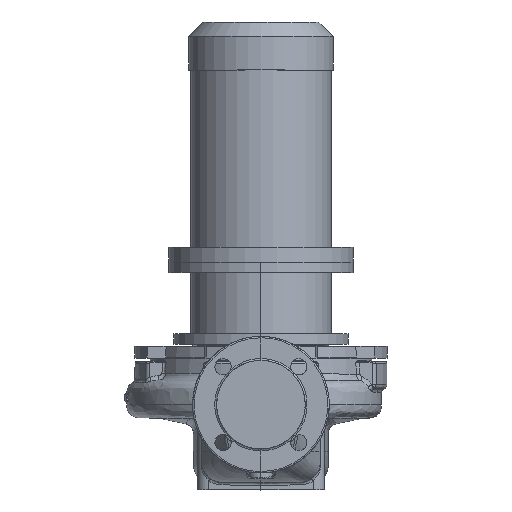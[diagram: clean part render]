
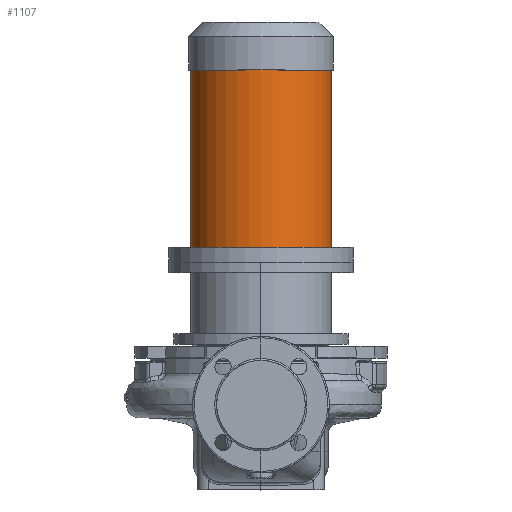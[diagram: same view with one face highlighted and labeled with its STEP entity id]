
A CAD part, top view. The second image highlights one B-rep face of the part: STEP entity #1107.
In plain terms, the highlighted cylindrical face has radius 95 mm (diameter 190 mm), a partial arc.
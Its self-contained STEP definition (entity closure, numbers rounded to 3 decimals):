
#1107 = ADVANCED_FACE ( 'NONE', ( #34441 ), #26042, .T. ) ;
#5567 = EDGE_CURVE ( 'NONE', #26272, #21528, #36604, .T. ) ;
#5949 = VECTOR ( 'NONE', #35008, 1000. ) ;
#6014 = CARTESIAN_POINT ( 'NONE',  ( 0., 213.3, 0. ) ) ;
#7045 = VECTOR ( 'NONE', #10068, 1000. ) ;
#8046 = EDGE_CURVE ( 'NONE', #19431, #26694, #44981, .T. ) ;
#8595 = DIRECTION ( 'NONE',  ( 0., -1., 0. ) ) ;
#9635 = DIRECTION ( 'NONE',  ( 0., -1., 0. ) ) ;
#10068 = DIRECTION ( 'NONE',  ( 0., -1., 0. ) ) ;
#10486 = DIRECTION ( 'NONE',  ( 0., -1., 0. ) ) ;
#13094 = CARTESIAN_POINT ( 'NONE',  ( 0., 193.3, 0. ) ) ;
#16784 = ORIENTED_EDGE ( 'NONE', *, *, #8046, .T. ) ;
#16792 = CARTESIAN_POINT ( 'NONE',  ( -95., 453.3, 0. ) ) ;
#17458 = CARTESIAN_POINT ( 'NONE',  ( -95., 193.3, 0. ) ) ;
#18017 = AXIS2_PLACEMENT_3D ( 'NONE', #13094, #8595, #26022 ) ;
#19431 = VERTEX_POINT ( 'NONE', #38943 ) ;
#21528 = VERTEX_POINT ( 'NONE', #29288 ) ;
#23441 = LINE ( 'NONE', #17458, #5949 ) ;
#25964 = LINE ( 'NONE', #36260, #7045 ) ;
#26022 = DIRECTION ( 'NONE',  ( -1., 0., 0. ) ) ;
#26042 = CYLINDRICAL_SURFACE ( 'NONE', #18017, 95. ) ;
#26272 = VERTEX_POINT ( 'NONE', #57650 ) ;
#26694 = VERTEX_POINT ( 'NONE', #16792 ) ;
#27617 = ORIENTED_EDGE ( 'NONE', *, *, #39811, .F. ) ;
#29288 = CARTESIAN_POINT ( 'NONE',  ( -95., 213.3, 0. ) ) ;
#32367 = AXIS2_PLACEMENT_3D ( 'NONE', #53309, #9635, #41285 ) ;
#32692 = ORIENTED_EDGE ( 'NONE', *, *, #52329, .T. ) ;
#34441 = FACE_OUTER_BOUND ( 'NONE', #46200, .T. ) ;
#35008 = DIRECTION ( 'NONE',  ( 0., -1., 0. ) ) ;
#36260 = CARTESIAN_POINT ( 'NONE',  ( 95., 193.3, 0. ) ) ;
#36604 = CIRCLE ( 'NONE', #52978, 95. ) ;
#38943 = CARTESIAN_POINT ( 'NONE',  ( 95., 453.3, 0. ) ) ;
#39811 = EDGE_CURVE ( 'NONE', #19431, #26272, #25964, .T. ) ;
#41285 = DIRECTION ( 'NONE',  ( -1., 0., 0. ) ) ;
#44981 = CIRCLE ( 'NONE', #32367, 95. ) ;
#46200 = EDGE_LOOP ( 'NONE', ( #27617, #16784, #32692, #54126 ) ) ;
#52329 = EDGE_CURVE ( 'NONE', #26694, #21528, #23441, .T. ) ;
#52978 = AXIS2_PLACEMENT_3D ( 'NONE', #6014, #10486, #54338 ) ;
#53309 = CARTESIAN_POINT ( 'NONE',  ( 0., 453.3, 0. ) ) ;
#54126 = ORIENTED_EDGE ( 'NONE', *, *, #5567, .F. ) ;
#54338 = DIRECTION ( 'NONE',  ( -1., 0., 0. ) ) ;
#57650 = CARTESIAN_POINT ( 'NONE',  ( 95., 213.3, 0. ) ) ;
